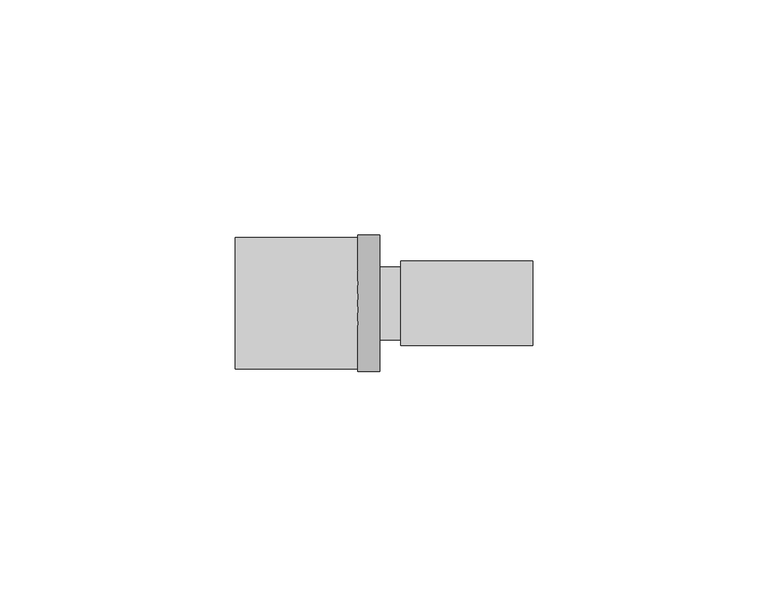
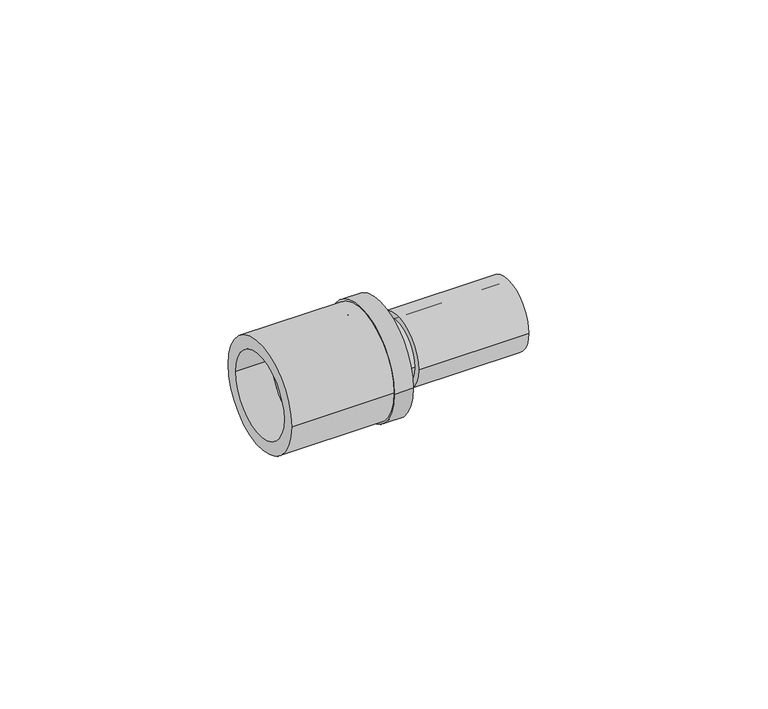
"""IFC4 building model written with IfcOpenShell, lengths in millimetres: pipe fitting geometry, FASTLOC Copper press adapter RX+ : FSL RX+ AT."""

from ifc_helpers import new_model, si_unit, point, frame, origin, origin_2d, place, context, project, spatial, polyline, circle_curve, trimmed, segment, composite_curve, outline, extrude, source, transform, mapped, element, save
from ifc_brep_helpers import plane_surface, cylinder_surface, revolved_surface, advanced_brep


def pipe_fitting_164b9098(model_context):
    return source(origin(), model_context, "Body", "SolidModel", [
        extrude(outline(composite_curve([segment(trimmed(circle_curve(origin_2d(), 14.0), [point((14.0, 0.0))], [point((-14.0, 0.0))], False, "CARTESIAN"), True, "CONTINUOUS"), segment(trimmed(circle_curve(origin_2d(), 14.0), [point((-14.0, 0.0))], [point((14.0, 0.0))], False, "CARTESIAN"), True, "CONTINUOUS")], self_intersect=False), holes=[composite_curve([segment(trimmed(circle_curve(origin_2d(), 10.7), [point((10.7, 0.0))], [point((-10.7, 0.0))], True, "CARTESIAN"), True, "CONTINUOUS"), segment(trimmed(circle_curve(origin_2d(), 10.7), [point((-10.7, 0.0))], [point((10.7, 0.0))], True, "CARTESIAN"), True, "CONTINUOUS")], self_intersect=False)]), frame((-35.2, 0.0, 0.0), z_axis=(1.0, 0.0, 0.0), x_axis=(0.0, 1.0, 0.0)), (0.0, 0.0, 1.0), 26.0),
        advanced_brep(
        [(-9.2, -14.5, 0.0), (-9.2, 14.5, 0.0), (-4.5, 14.5, 0.0), (-4.5, -14.5, 0.0), (-26.2, -11.85, 0.0), (-26.2, 11.85, 0.0), (-9.2, 11.85, 0.0), (-9.2, -11.85, 0.0), (-4.5, -10.15, 0.0), (-4.5, 10.15, 0.0), (-26.2, 10.15, 0.0), (-26.2, -10.15, 0.0)],
        [
            (0, 1, circle_curve(frame((-9.2, 0.0, 0.0), z_axis=(1.0, 0.0, 0.0), x_axis=(0.0, 1.0, 0.0)), 14.5)),
            (1, 2),
            (2, 3, circle_curve(frame((-4.5, 0.0, 0.0), z_axis=(-1.0, 0.0, 0.0), x_axis=(0.0, 1.0, 0.0)), 14.5)),
            (3, 0),
            (4, 5, circle_curve(frame((-26.2, 0.0, 0.0), z_axis=(1.0, 0.0, 0.0), x_axis=(0.0, 1.0, 0.0)), 11.85)),
            (5, 6),
            (6, 7, circle_curve(frame((-9.2, 0.0, 0.0), z_axis=(-1.0, 0.0, 0.0), x_axis=(0.0, 1.0, 0.0)), 11.85)),
            (7, 4),
            (8, 9, circle_curve(frame((-4.5, 0.0, 0.0), z_axis=(1.0, 0.0, 0.0), x_axis=(0.0, 1.0, 0.0)), 10.15)),
            (9, 10),
            (10, 11, circle_curve(frame((-26.2, 0.0, 0.0), z_axis=(-1.0, 0.0, 0.0), x_axis=(0.0, 1.0, 0.0)), 10.15)),
            (11, 8),
            (1, 0, circle_curve(frame((-9.2, 0.0, 0.0), z_axis=(1.0, 0.0, 0.0), x_axis=(0.0, -1.0, 0.0)), 14.5)),
            (3, 2, circle_curve(frame((-4.5, 0.0, 0.0), z_axis=(-1.0, 0.0, 0.0), x_axis=(0.0, -1.0, 0.0)), 14.5)),
            (6, 7, circle_curve(frame((-9.2, 0.0, 0.0), z_axis=(1.0, 0.0, 0.0), x_axis=(0.0, -1.0, 0.0)), 11.85)),
            (5, 4, circle_curve(frame((-26.2, 0.0, 0.0), z_axis=(1.0, 0.0, 0.0), x_axis=(0.0, -1.0, 0.0)), 11.85)),
            (10, 11, circle_curve(frame((-26.2, 0.0, 0.0), z_axis=(1.0, 0.0, 0.0), x_axis=(0.0, -1.0, 0.0)), 10.15)),
            (9, 8, circle_curve(frame((-4.5, 0.0, 0.0), z_axis=(1.0, 0.0, 0.0), x_axis=(0.0, -1.0, 0.0)), 10.15)),
        ],
        [
            cylinder_surface(frame((-4.5, 0.0, 0.0), z_axis=(-1.0, 0.0, 0.0), x_axis=(0.0, 1.0, 0.0)), 14.5),
            cylinder_surface(frame((-4.5, 0.0, 0.0), z_axis=(-1.0, 0.0, 0.0), x_axis=(0.0, 1.0, 0.0)), 11.85),
            revolved_surface(polyline([(-26.2, 10.15, 0.0), (-4.5, 10.15, 0.0)]), (-4.5, 0.0, 0.0), (-1.0, 0.0, 0.0)),
            cylinder_surface(frame((-4.5, 0.0, 0.0), z_axis=(-1.0, 0.0, 0.0), x_axis=(0.0, -1.0, 0.0)), 14.5),
            plane_surface(frame((-9.2, 0.0, 0.0), z_axis=(-1.0, 0.0, 0.0), x_axis=(0.0, -1.0, 0.0))),
            cylinder_surface(frame((-4.5, 0.0, 0.0), z_axis=(-1.0, 0.0, 0.0), x_axis=(0.0, -1.0, 0.0)), 11.85),
            plane_surface(frame((-26.2, 0.0, 0.0), z_axis=(-1.0, 0.0, 0.0), x_axis=(0.0, -1.0, 0.0))),
            revolved_surface(polyline([(-26.2, -10.15, 0.0), (-4.5, -10.15, 0.0)]), (-4.5, 0.0, 0.0), (-1.0, 0.0, 0.0)),
            plane_surface(frame((-4.5, 0.0, 0.0), z_axis=(1.0, 0.0, 0.0), x_axis=(0.0, -1.0, 0.0))),
        ],
        [
            (0, [[1, 2, 3, 4]]),
            (1, [[5, 6, 7, 8]]),
            (2, [[9, 10, 11, 12]]),
            (3, [[13, -4, 14, -2]]),
            (4, [[-13, -1], [15, -7]]),
            (5, [[16, -8, -15, -6]]),
            (6, [[-16, -5], [17, -11]]),
            (7, [[18, -12, -17, -10]]),
            (8, [[-14, -3], [-18, -9]]),
        ],
    ),
        extrude(outline(composite_curve([segment(trimmed(circle_curve(origin_2d(), 9.0), [point((-9.0, 0.0))], [point((9.0, 0.0))], False, "CARTESIAN"), True, "CONTINUOUS"), segment(trimmed(circle_curve(origin_2d(), 9.0), [point((9.0, 0.0))], [point((-9.0, 0.0))], False, "CARTESIAN"), True, "CONTINUOUS")], self_intersect=False), holes=[composite_curve([segment(trimmed(circle_curve(origin_2d(), 6.75), [point((-6.75, 0.0))], [point((6.75, 0.0))], True, "CARTESIAN"), True, "CONTINUOUS"), segment(trimmed(circle_curve(origin_2d(), 6.75), [point((6.75, 0.0))], [point((-6.75, 0.0))], True, "CARTESIAN"), True, "CONTINUOUS")], self_intersect=False)]), frame((0.0, 0.0, 0.0), z_axis=(1.0, 0.0, 0.0), x_axis=(0.0, 1.0, 0.0)), (0.0, 0.0, 1.0), 28.0),
        advanced_brep(
        [(-9.2, 7.75, 0.0), (-9.2, -7.75, 0.0), (-26.6, -7.75, 0.0), (-26.6, 7.75, 0.0), (-6.5, 8.8, 0.0), (-6.5, -8.8, 0.0), (-9.2, -8.8, 0.0), (-9.2, 8.8, 0.0), (0.0, 7.75, 0.0), (0.0, -7.75, 0.0), (-6.5, -7.75, 0.0), (-6.5, 7.75, 0.0), (-26.6, 5.75, 0.0), (-26.6, -5.75, 0.0), (0.0, -5.75, 0.0), (0.0, 5.75, 0.0)],
        [
            (0, 1, circle_curve(frame((-9.2, 0.0, 0.0), z_axis=(-1.0, 0.0, 0.0), x_axis=(0.0, -1.0, 0.0)), 7.75)),
            (1, 2),
            (2, 3, circle_curve(frame((-26.6, 0.0, 0.0), z_axis=(1.0, 0.0, 0.0), x_axis=(0.0, -1.0, 0.0)), 7.75)),
            (3, 0),
            (4, 5, circle_curve(frame((-6.5, 0.0, 0.0), z_axis=(-1.0, 0.0, 0.0), x_axis=(0.0, -1.0, 0.0)), 8.8)),
            (5, 6),
            (6, 7, circle_curve(frame((-9.2, 0.0, 0.0), z_axis=(1.0, 0.0, 0.0), x_axis=(0.0, -1.0, 0.0)), 8.8)),
            (7, 4),
            (8, 9, circle_curve(frame((0.0, 0.0, 0.0), z_axis=(-1.0, 0.0, 0.0), x_axis=(0.0, -1.0, 0.0)), 7.75)),
            (9, 10),
            (10, 11, circle_curve(frame((-6.5, 0.0, 0.0), z_axis=(1.0, 0.0, 0.0), x_axis=(0.0, -1.0, 0.0)), 7.75)),
            (11, 8),
            (12, 13, circle_curve(frame((-26.6, 0.0, 0.0), z_axis=(-1.0, 0.0, 0.0), x_axis=(0.0, -1.0, 0.0)), 5.75)),
            (13, 14),
            (14, 15, circle_curve(frame((0.0, 0.0, 0.0), z_axis=(1.0, 0.0, 0.0), x_axis=(0.0, -1.0, 0.0)), 5.75)),
            (15, 12),
            (2, 3, circle_curve(frame((-26.6, 0.0, 0.0), z_axis=(-1.0, 0.0, 0.0), x_axis=(0.0, 1.0, 0.0)), 7.75)),
            (12, 13, circle_curve(frame((-26.6, 0.0, 0.0), z_axis=(1.0, 0.0, 0.0), x_axis=(0.0, 1.0, 0.0)), 5.75)),
            (1, 0, circle_curve(frame((-9.2, 0.0, 0.0), z_axis=(-1.0, 0.0, 0.0), x_axis=(0.0, 1.0, 0.0)), 7.75)),
            (6, 7, circle_curve(frame((-9.2, 0.0, 0.0), z_axis=(-1.0, 0.0, 0.0), x_axis=(0.0, 1.0, 0.0)), 8.8)),
            (5, 4, circle_curve(frame((-6.5, 0.0, 0.0), z_axis=(-1.0, 0.0, 0.0), x_axis=(0.0, 1.0, 0.0)), 8.8)),
            (10, 11, circle_curve(frame((-6.5, 0.0, 0.0), z_axis=(-1.0, 0.0, 0.0), x_axis=(0.0, 1.0, 0.0)), 7.75)),
            (9, 8, circle_curve(frame((0.0, 0.0, 0.0), z_axis=(-1.0, 0.0, 0.0), x_axis=(0.0, 1.0, 0.0)), 7.75)),
            (14, 15, circle_curve(frame((0.0, 0.0, 0.0), z_axis=(-1.0, 0.0, 0.0), x_axis=(0.0, 1.0, 0.0)), 5.75)),
        ],
        [
            cylinder_surface(frame((0.0, 0.0, 0.0), z_axis=(1.0, 0.0, 0.0), x_axis=(0.0, -1.0, 0.0)), 7.75),
            cylinder_surface(frame((0.0, 0.0, 0.0), z_axis=(1.0, 0.0, 0.0), x_axis=(0.0, -1.0, 0.0)), 8.8),
            revolved_surface(polyline([(0.0, -5.75, 0.0), (-26.6, -5.75, 0.0)]), (0.0, 0.0, 0.0), (1.0, 0.0, 0.0)),
            plane_surface(frame((-26.6, 0.0, 0.0), z_axis=(-1.0, 0.0, 0.0), x_axis=(0.0, 1.0, 0.0))),
            cylinder_surface(frame((0.0, 0.0, 0.0), z_axis=(1.0, 0.0, 0.0), x_axis=(0.0, 1.0, 0.0)), 7.75),
            plane_surface(frame((-9.2, 0.0, 0.0), z_axis=(-1.0, 0.0, 0.0), x_axis=(0.0, 1.0, 0.0))),
            cylinder_surface(frame((0.0, 0.0, 0.0), z_axis=(1.0, 0.0, 0.0), x_axis=(0.0, 1.0, 0.0)), 8.8),
            plane_surface(frame((-6.5, 0.0, 0.0), z_axis=(1.0, 0.0, 0.0), x_axis=(0.0, 1.0, 0.0))),
            plane_surface(frame((0.0, 0.0, 0.0), z_axis=(1.0, 0.0, 0.0), x_axis=(0.0, 1.0, 0.0))),
            revolved_surface(polyline([(0.0, 5.75, 0.0), (-26.6, 5.75, 0.0)]), (0.0, 0.0, 0.0), (1.0, 0.0, 0.0)),
        ],
        [
            (0, [[1, 2, 3, 4]]),
            (1, [[5, 6, 7, 8]]),
            (0, [[9, 10, 11, 12]]),
            (2, [[13, 14, 15, 16]]),
            (3, [[17, -3], [18, -13]]),
            (4, [[19, -4, -17, -2]]),
            (5, [[20, -7], [-19, -1]]),
            (6, [[21, -8, -20, -6]]),
            (7, [[-21, -5], [22, -11]]),
            (4, [[23, -12, -22, -10]]),
            (8, [[-23, -9], [24, -15]]),
            (9, [[-18, -16, -24, -14]]),
        ],
    ),
    ])


if __name__ == "__main__":
    model = new_model("IFC4")
    model_context = context("Model", 3, world=origin())
    ifc_project = project(units=[si_unit("LENGTHUNIT", "METRE", prefix="MILLI")], contexts=[model_context])
    site = spatial("IfcSite", under=ifc_project)
    building = spatial("IfcBuilding", under=site)
    placement = place(None, origin())
    pipe_fitting_shape = pipe_fitting_164b9098(model_context)
    element("IfcPipeFitting", 1, ObjectType="FASTLOC Copper press adapter RX+ : FSL RX+ AT", at=placement, inside=building, context=model_context, shape_type="MappedRepresentation", body=[
        mapped(pipe_fitting_shape, transform((0.0, 0.0, 0.0), x_axis=(1.0, 0.0, 0.0), y_axis=(0.0, 1.0, 0.0), z_axis=(0.0, 0.0, 1.0))),
    ])
    save(model, "model.ifc")
